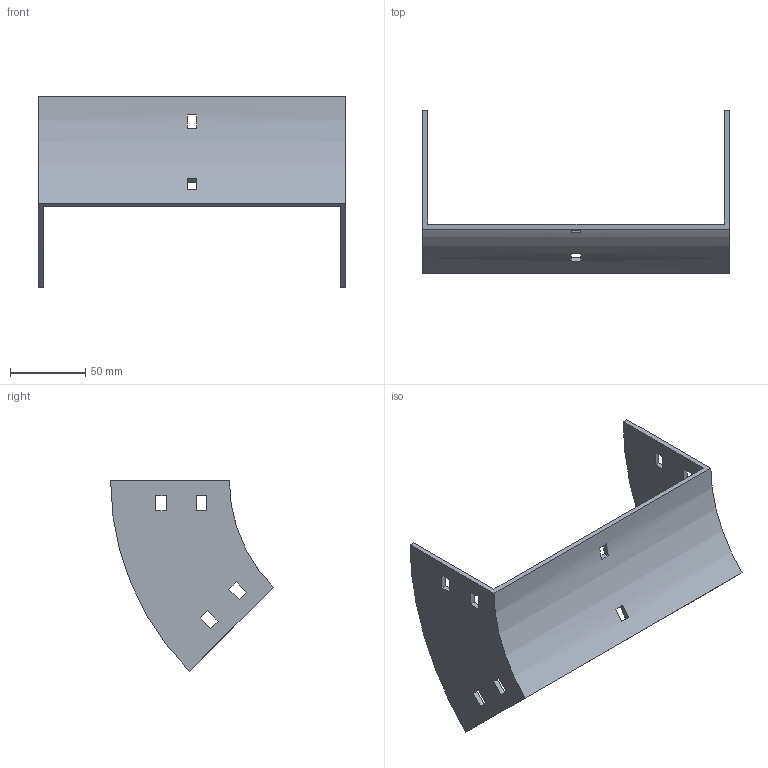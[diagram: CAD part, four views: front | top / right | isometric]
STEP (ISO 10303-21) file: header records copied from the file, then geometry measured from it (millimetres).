
FILE_DESCRIPTION (( 'STEP AP214' ), '1' );
FILE_NAME ('34B1C200.step', '2025-02-21T09:29:25', ( '' ), ( '' ), 'SwSTEP 2.0', 'SolidWorks 2023', '' );
FILE_SCHEMA (( 'AUTOMOTIVE_DESIGN' ));
Length unit declared in the file: millimetre
Products named in the file (1): 34B1C200
Bounding box: 204 x 108.29 x 126.57 mm (x, y, z)
Volume: 113314.1 mm3; surface area: 69382.5 mm2
Topology: 1 solids, 1 shells, 50 faces, 144 edges, 96 vertices
Faces by surface type: plane 46, cylinder 4
Entity records: 1687 total; most frequent: CARTESIAN_POINT 291, ORIENTED_EDGE 288, DIRECTION 262, EDGE_CURVE 144, VECTOR 128, LINE 128, VERTEX_POINT 96, EDGE_LOOP 70
